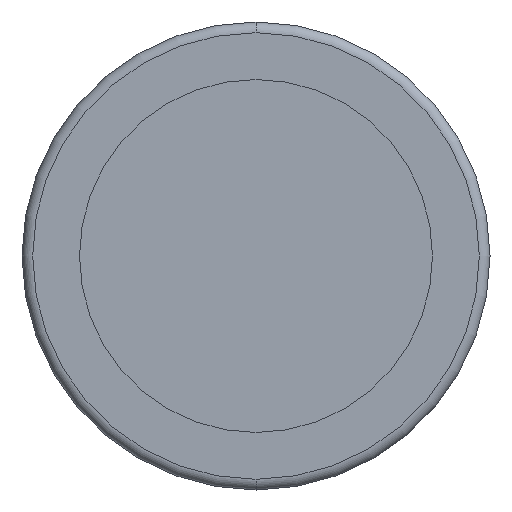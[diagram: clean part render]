
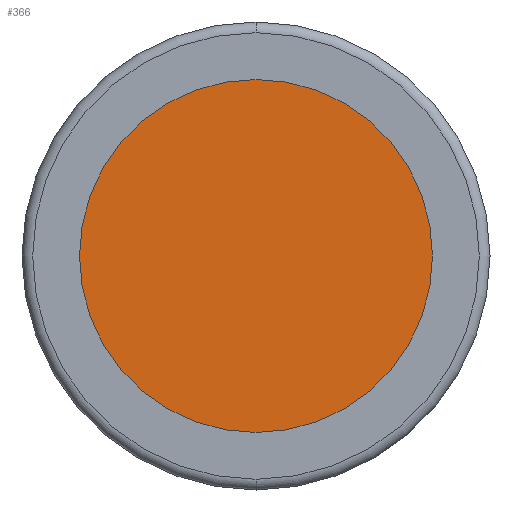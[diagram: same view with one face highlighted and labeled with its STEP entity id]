
A CAD part, front view. The second image highlights one B-rep face of the part: STEP entity #366.
In plain terms, the highlighted planar face has unit normal (0, -1, 0).
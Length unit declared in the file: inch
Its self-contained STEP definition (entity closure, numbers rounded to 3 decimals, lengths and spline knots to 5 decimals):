
#13 = CARTESIAN_POINT ( 'NONE',  ( 0., -0.575, 0. ) ) ;
#42 = CARTESIAN_POINT ( 'NONE',  ( 0., -0.575, 0. ) ) ;
#49 = EDGE_CURVE ( 'NONE', #308, #342, #1031, .T. ) ;
#74 = DIRECTION ( 'NONE',  ( 0., 0., -1. ) ) ;
#88 = AXIS2_PLACEMENT_3D ( 'NONE', #42, #431, #145 ) ;
#145 = DIRECTION ( 'NONE',  ( 0., 0., -1. ) ) ;
#157 = EDGE_CURVE ( 'NONE', #342, #308, #207, .T. ) ;
#204 = ORIENTED_EDGE ( 'NONE', *, *, #157, .T. ) ;
#207 = CIRCLE ( 'NONE', #88, 0.33 ) ;
#255 = CARTESIAN_POINT ( 'NONE',  ( 0., -0.575, -0.33 ) ) ;
#272 = CARTESIAN_POINT ( 'NONE',  ( 0., -0.575, 0. ) ) ;
#308 = VERTEX_POINT ( 'NONE', #540 ) ;
#342 = VERTEX_POINT ( 'NONE', #255 ) ;
#346 = FACE_OUTER_BOUND ( 'NONE', #601, .T. ) ;
#366 = ADVANCED_FACE ( 'NONE', ( #346 ), #1222, .T. ) ;
#431 = DIRECTION ( 'NONE',  ( 0., -1., 0. ) ) ;
#517 = DIRECTION ( 'NONE',  ( 0., -1., 0. ) ) ;
#540 = CARTESIAN_POINT ( 'NONE',  ( 0., -0.575, 0.33 ) ) ;
#601 = EDGE_LOOP ( 'NONE', ( #849, #204 ) ) ;
#673 = AXIS2_PLACEMENT_3D ( 'NONE', #272, #1034, #74 ) ;
#849 = ORIENTED_EDGE ( 'NONE', *, *, #49, .T. ) ;
#853 = AXIS2_PLACEMENT_3D ( 'NONE', #13, #517, #1062 ) ;
#1031 = CIRCLE ( 'NONE', #853, 0.33 ) ;
#1034 = DIRECTION ( 'NONE',  ( 0., -1., 0. ) ) ;
#1062 = DIRECTION ( 'NONE',  ( 0., 0., -1. ) ) ;
#1222 = PLANE ( 'NONE',  #673 ) ;
